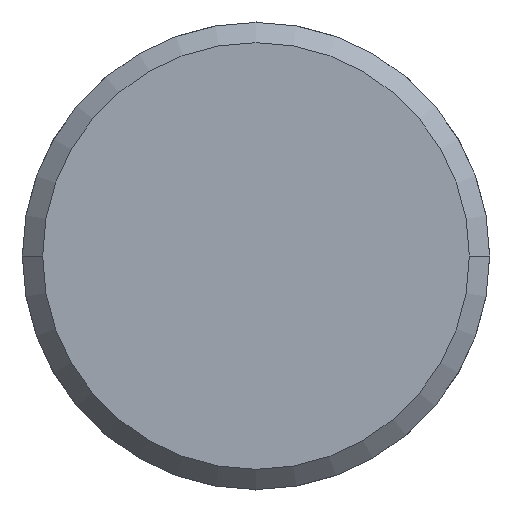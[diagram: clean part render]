
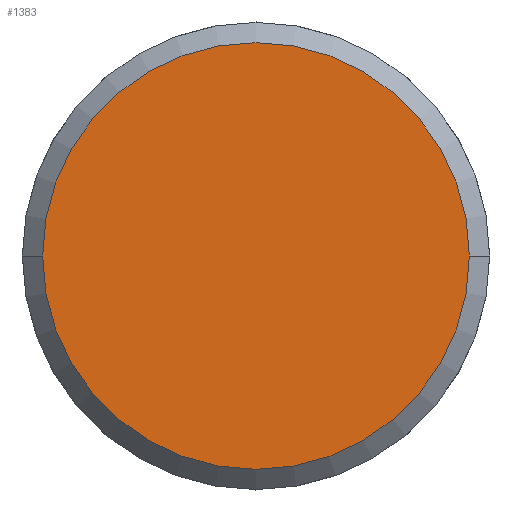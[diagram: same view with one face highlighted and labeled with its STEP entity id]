
A CAD part, left-side view. The second image highlights one B-rep face of the part: STEP entity #1383.
In plain terms, the highlighted planar face has unit normal (-1, 0, 0).
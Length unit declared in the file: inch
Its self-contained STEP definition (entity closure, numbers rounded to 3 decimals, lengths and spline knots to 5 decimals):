
#58 = CIRCLE ( 'NONE', #495, 0.658 ) ;
#249 = DIRECTION ( 'NONE',  ( 0., 1., 0. ) ) ;
#250 = DIRECTION ( 'NONE',  ( -1., 0., 0. ) ) ;
#251 = CARTESIAN_POINT ( 'NONE',  ( -2.11778, 1.17193, 0. ) ) ;
#304 = CARTESIAN_POINT ( 'NONE',  ( -2.11778, 0.51393, 0. ) ) ;
#313 = CARTESIAN_POINT ( 'NONE',  ( -2.11778, 1.82993, 0. ) ) ;
#495 = AXIS2_PLACEMENT_3D ( 'NONE', #789, #792, #841 ) ;
#527 = AXIS2_PLACEMENT_3D ( 'NONE', #251, #250, #249 ) ;
#592 = VERTEX_POINT ( 'NONE', #313 ) ;
#606 = VERTEX_POINT ( 'NONE', #304 ) ;
#661 = EDGE_LOOP ( 'NONE', ( #1062, #1058 ) ) ;
#713 = AXIS2_PLACEMENT_3D ( 'NONE', #884, #918, #909 ) ;
#789 = CARTESIAN_POINT ( 'NONE',  ( -2.11778, 1.17193, 0. ) ) ;
#792 = DIRECTION ( 'NONE',  ( -1., 0., 0. ) ) ;
#841 = DIRECTION ( 'NONE',  ( 0., 1., 0. ) ) ;
#877 = PLANE ( 'NONE',  #713 ) ;
#884 = CARTESIAN_POINT ( 'NONE',  ( -2.11778, 0.64743, 0. ) ) ;
#909 = DIRECTION ( 'NONE',  ( 0., 0., 1. ) ) ;
#918 = DIRECTION ( 'NONE',  ( -1., 0., 0. ) ) ;
#934 = FACE_OUTER_BOUND ( 'NONE', #661, .T. ) ;
#970 = EDGE_CURVE ( 'NONE', #592, #606, #1116, .T. ) ;
#1039 = EDGE_CURVE ( 'NONE', #606, #592, #58, .T. ) ;
#1058 = ORIENTED_EDGE ( 'NONE', *, *, #1039, .T. ) ;
#1062 = ORIENTED_EDGE ( 'NONE', *, *, #970, .T. ) ;
#1116 = CIRCLE ( 'NONE', #527, 0.658 ) ;
#1383 = ADVANCED_FACE ( 'NONE', ( #934 ), #877, .T. ) ;
